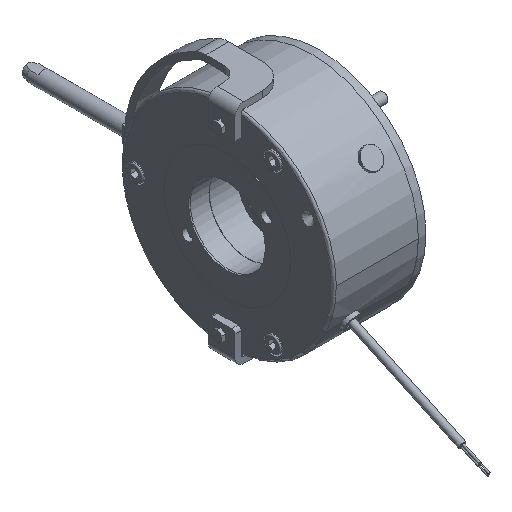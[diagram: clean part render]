
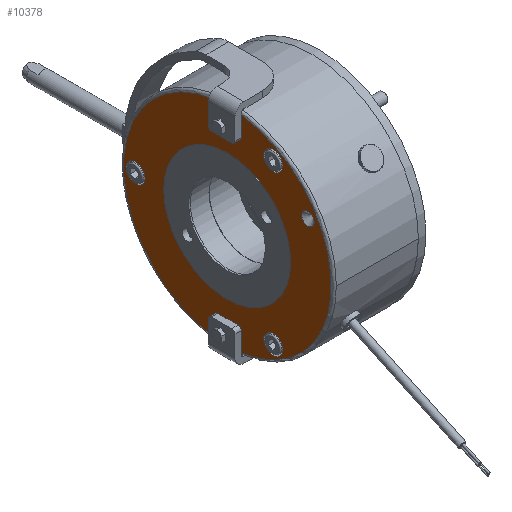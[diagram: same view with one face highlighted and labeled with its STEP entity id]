
A CAD part, isometric view. The second image highlights one B-rep face of the part: STEP entity #10378.
In plain terms, the highlighted planar face has unit normal (-1, 0, 0).
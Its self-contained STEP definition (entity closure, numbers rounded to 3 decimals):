
#744=FACE_BOUND('',#2238,.T.);
#745=FACE_BOUND('',#2239,.T.);
#746=FACE_BOUND('',#2240,.T.);
#747=FACE_BOUND('',#2241,.T.);
#748=FACE_BOUND('',#2242,.T.);
#1034=CIRCLE('',#11182,50.);
#1035=CIRCLE('',#11183,50.);
#1044=CIRCLE('',#11195,7.5);
#1045=CIRCLE('',#11196,7.5);
#1048=CIRCLE('',#11201,7.5);
#1049=CIRCLE('',#11202,7.5);
#1052=CIRCLE('',#11207,7.5);
#1053=CIRCLE('',#11208,7.5);
#1058=CIRCLE('',#11215,82.);
#1060=CIRCLE('',#11217,82.);
#1069=CIRCLE('',#11230,2.5);
#1070=CIRCLE('',#11231,2.5);
#1071=CIRCLE('',#11232,2.5);
#1072=CIRCLE('',#11233,2.5);
#1073=CIRCLE('',#11234,5.);
#1074=CIRCLE('',#11235,5.);
#1666=FACE_OUTER_BOUND('',#2237,.T.);
#2237=EDGE_LOOP('',(#7715,#7716,#7717,#7718,#7719,#7720,#7721,#7722,#7723,
#7724,#7725,#7726));
#2238=EDGE_LOOP('',(#7727,#7728));
#2239=EDGE_LOOP('',(#7729,#7730));
#2240=EDGE_LOOP('',(#7731,#7732));
#2241=EDGE_LOOP('',(#7733,#7734));
#2242=EDGE_LOOP('',(#7735,#7736));
#2916=LINE('',#16949,#3475);
#2917=LINE('',#16951,#3476);
#2918=LINE('',#16955,#3477);
#2919=LINE('',#16958,#3478);
#2920=LINE('',#16960,#3479);
#2921=LINE('',#16964,#3480);
#3475=VECTOR('',#13192,10.);
#3476=VECTOR('',#13193,10.);
#3477=VECTOR('',#13196,10.);
#3478=VECTOR('',#13199,10.);
#3479=VECTOR('',#13200,10.);
#3480=VECTOR('',#13203,10.);
#4243=VERTEX_POINT('',#16858);
#4244=VERTEX_POINT('',#16859);
#4253=VERTEX_POINT('',#16883);
#4254=VERTEX_POINT('',#16884);
#4257=VERTEX_POINT('',#16894);
#4258=VERTEX_POINT('',#16895);
#4261=VERTEX_POINT('',#16905);
#4262=VERTEX_POINT('',#16906);
#4266=VERTEX_POINT('',#16918);
#4267=VERTEX_POINT('',#16920);
#4268=VERTEX_POINT('',#16922);
#4269=VERTEX_POINT('',#16924);
#4277=VERTEX_POINT('',#16948);
#4278=VERTEX_POINT('',#16950);
#4279=VERTEX_POINT('',#16952);
#4280=VERTEX_POINT('',#16954);
#4281=VERTEX_POINT('',#16956);
#4282=VERTEX_POINT('',#16959);
#4283=VERTEX_POINT('',#16961);
#4284=VERTEX_POINT('',#16963);
#4285=VERTEX_POINT('',#16966);
#4286=VERTEX_POINT('',#16967);
#5497=EDGE_CURVE('',#4243,#4244,#1034,.T.);
#5498=EDGE_CURVE('',#4244,#4243,#1035,.T.);
#5509=EDGE_CURVE('',#4253,#4254,#1044,.T.);
#5510=EDGE_CURVE('',#4254,#4253,#1045,.T.);
#5514=EDGE_CURVE('',#4257,#4258,#1048,.T.);
#5515=EDGE_CURVE('',#4258,#4257,#1049,.T.);
#5519=EDGE_CURVE('',#4261,#4262,#1052,.T.);
#5520=EDGE_CURVE('',#4262,#4261,#1053,.T.);
#5526=EDGE_CURVE('',#4266,#4267,#1058,.T.);
#5528=EDGE_CURVE('',#4268,#4269,#1060,.T.);
#5540=EDGE_CURVE('',#4277,#4269,#2916,.T.);
#5541=EDGE_CURVE('',#4268,#4278,#2917,.T.);
#5542=EDGE_CURVE('',#4278,#4279,#1069,.T.);
#5543=EDGE_CURVE('',#4279,#4280,#2918,.T.);
#5544=EDGE_CURVE('',#4280,#4281,#1070,.T.);
#5545=EDGE_CURVE('',#4281,#4267,#2919,.T.);
#5546=EDGE_CURVE('',#4266,#4282,#2920,.T.);
#5547=EDGE_CURVE('',#4282,#4283,#1071,.T.);
#5548=EDGE_CURVE('',#4283,#4284,#2921,.T.);
#5549=EDGE_CURVE('',#4284,#4277,#1072,.T.);
#5550=EDGE_CURVE('',#4285,#4286,#1073,.T.);
#5551=EDGE_CURVE('',#4286,#4285,#1074,.T.);
#7715=ORIENTED_EDGE('',*,*,#5540,.T.);
#7716=ORIENTED_EDGE('',*,*,#5528,.F.);
#7717=ORIENTED_EDGE('',*,*,#5541,.T.);
#7718=ORIENTED_EDGE('',*,*,#5542,.T.);
#7719=ORIENTED_EDGE('',*,*,#5543,.T.);
#7720=ORIENTED_EDGE('',*,*,#5544,.T.);
#7721=ORIENTED_EDGE('',*,*,#5545,.T.);
#7722=ORIENTED_EDGE('',*,*,#5526,.F.);
#7723=ORIENTED_EDGE('',*,*,#5546,.T.);
#7724=ORIENTED_EDGE('',*,*,#5547,.T.);
#7725=ORIENTED_EDGE('',*,*,#5548,.T.);
#7726=ORIENTED_EDGE('',*,*,#5549,.T.);
#7727=ORIENTED_EDGE('',*,*,#5550,.T.);
#7728=ORIENTED_EDGE('',*,*,#5551,.T.);
#7729=ORIENTED_EDGE('',*,*,#5497,.T.);
#7730=ORIENTED_EDGE('',*,*,#5498,.T.);
#7731=ORIENTED_EDGE('',*,*,#5509,.T.);
#7732=ORIENTED_EDGE('',*,*,#5510,.T.);
#7733=ORIENTED_EDGE('',*,*,#5514,.T.);
#7734=ORIENTED_EDGE('',*,*,#5515,.T.);
#7735=ORIENTED_EDGE('',*,*,#5519,.T.);
#7736=ORIENTED_EDGE('',*,*,#5520,.T.);
#9494=PLANE('',#11229);
#10378=ADVANCED_FACE('',(#1666,#744,#745,#746,#747,#748),#9494,.T.);
#11182=AXIS2_PLACEMENT_3D('',#16860,#13088,#13089);
#11183=AXIS2_PLACEMENT_3D('',#16861,#13090,#13091);
#11195=AXIS2_PLACEMENT_3D('',#16885,#13116,#13117);
#11196=AXIS2_PLACEMENT_3D('',#16886,#13118,#13119);
#11201=AXIS2_PLACEMENT_3D('',#16896,#13129,#13130);
#11202=AXIS2_PLACEMENT_3D('',#16897,#13131,#13132);
#11207=AXIS2_PLACEMENT_3D('',#16907,#13142,#13143);
#11208=AXIS2_PLACEMENT_3D('',#16908,#13144,#13145);
#11215=AXIS2_PLACEMENT_3D('',#16921,#13159,#13160);
#11217=AXIS2_PLACEMENT_3D('',#16925,#13163,#13164);
#11229=AXIS2_PLACEMENT_3D('',#16947,#13190,#13191);
#11230=AXIS2_PLACEMENT_3D('',#16953,#13194,#13195);
#11231=AXIS2_PLACEMENT_3D('',#16957,#13197,#13198);
#11232=AXIS2_PLACEMENT_3D('',#16962,#13201,#13202);
#11233=AXIS2_PLACEMENT_3D('',#16965,#13204,#13205);
#11234=AXIS2_PLACEMENT_3D('',#16968,#13206,#13207);
#11235=AXIS2_PLACEMENT_3D('',#16969,#13208,#13209);
#13088=DIRECTION('center_axis',(1.,0.,0.));
#13089=DIRECTION('ref_axis',(0.,1.,0.));
#13090=DIRECTION('center_axis',(1.,0.,0.));
#13091=DIRECTION('ref_axis',(0.,1.,0.));
#13116=DIRECTION('center_axis',(1.,0.,0.));
#13117=DIRECTION('ref_axis',(0.,0.,1.));
#13118=DIRECTION('center_axis',(1.,0.,0.));
#13119=DIRECTION('ref_axis',(0.,0.,1.));
#13129=DIRECTION('center_axis',(1.,0.,0.));
#13130=DIRECTION('ref_axis',(0.,0.,1.));
#13131=DIRECTION('center_axis',(1.,0.,0.));
#13132=DIRECTION('ref_axis',(0.,0.,1.));
#13142=DIRECTION('center_axis',(1.,0.,0.));
#13143=DIRECTION('ref_axis',(0.,0.,1.));
#13144=DIRECTION('center_axis',(1.,0.,0.));
#13145=DIRECTION('ref_axis',(0.,0.,1.));
#13159=DIRECTION('center_axis',(1.,0.,0.));
#13160=DIRECTION('ref_axis',(0.,-1.,0.));
#13163=DIRECTION('center_axis',(1.,0.,0.));
#13164=DIRECTION('ref_axis',(0.,-1.,0.));
#13190=DIRECTION('center_axis',(-1.,0.,0.));
#13191=DIRECTION('ref_axis',(0.,0.,1.));
#13192=DIRECTION('',(0.,0.,1.));
#13193=DIRECTION('',(0.,0.,1.));
#13194=DIRECTION('center_axis',(1.,0.,0.));
#13195=DIRECTION('ref_axis',(0.,0.707,0.707));
#13196=DIRECTION('',(0.,-1.,0.));
#13197=DIRECTION('center_axis',(1.,0.,0.));
#13198=DIRECTION('ref_axis',(0.,-0.707,0.707));
#13199=DIRECTION('',(0.,0.,-1.));
#13200=DIRECTION('',(0.,0.,-1.));
#13201=DIRECTION('center_axis',(1.,0.,0.));
#13202=DIRECTION('ref_axis',(0.,-0.707,-0.707));
#13203=DIRECTION('',(0.,1.,0.));
#13204=DIRECTION('center_axis',(1.,0.,0.));
#13205=DIRECTION('ref_axis',(0.,0.707,-0.707));
#13206=DIRECTION('center_axis',(1.,0.,0.));
#13207=DIRECTION('ref_axis',(0.,0.,1.));
#13208=DIRECTION('center_axis',(1.,0.,0.));
#13209=DIRECTION('ref_axis',(0.,0.,1.));
#16858=CARTESIAN_POINT('',(-66.8,50.,0.));
#16859=CARTESIAN_POINT('',(-66.8,-50.,0.));
#16860=CARTESIAN_POINT('Origin',(-66.8,0.,0.));
#16861=CARTESIAN_POINT('Origin',(-66.8,0.,0.));
#16883=CARTESIAN_POINT('',(-66.8,72.5,7.5));
#16884=CARTESIAN_POINT('',(-66.8,72.5,-7.5));
#16885=CARTESIAN_POINT('Origin',(-66.8,72.5,0.));
#16886=CARTESIAN_POINT('Origin',(-66.8,72.5,0.));
#16894=CARTESIAN_POINT('',(-66.8,-36.25,-55.287));
#16895=CARTESIAN_POINT('',(-66.8,-36.25,-70.287));
#16896=CARTESIAN_POINT('Origin',(-66.8,-36.25,-62.787));
#16897=CARTESIAN_POINT('Origin',(-66.8,-36.25,-62.787));
#16905=CARTESIAN_POINT('',(-66.8,-36.25,70.287));
#16906=CARTESIAN_POINT('',(-66.8,-36.25,55.287));
#16907=CARTESIAN_POINT('Origin',(-66.8,-36.25,62.787));
#16908=CARTESIAN_POINT('Origin',(-66.8,-36.25,62.787));
#16918=CARTESIAN_POINT('',(-66.8,-11.,81.259));
#16920=CARTESIAN_POINT('',(-66.8,-11.,-81.259));
#16921=CARTESIAN_POINT('Origin',(-66.8,0.,0.));
#16922=CARTESIAN_POINT('',(-66.8,10.,-81.388));
#16924=CARTESIAN_POINT('',(-66.8,10.,81.388));
#16925=CARTESIAN_POINT('Origin',(-66.8,0.,0.));
#16947=CARTESIAN_POINT('Origin',(-66.8,67.,0.));
#16948=CARTESIAN_POINT('',(-66.8,10.,66.));
#16949=CARTESIAN_POINT('',(-66.8,10.,42.25));
#16950=CARTESIAN_POINT('',(-66.8,10.,-66.));
#16951=CARTESIAN_POINT('',(-66.8,10.,-44.75));
#16952=CARTESIAN_POINT('',(-66.8,7.5,-63.5));
#16953=CARTESIAN_POINT('Origin',(-66.8,7.5,-66.));
#16954=CARTESIAN_POINT('',(-66.8,-8.5,-63.5));
#16955=CARTESIAN_POINT('',(-66.8,38.5,-63.5));
#16956=CARTESIAN_POINT('',(-66.8,-11.,-66.));
#16957=CARTESIAN_POINT('Origin',(-66.8,-8.5,-66.));
#16958=CARTESIAN_POINT('',(-66.8,-11.,-42.25));
#16959=CARTESIAN_POINT('',(-66.8,-11.,66.));
#16960=CARTESIAN_POINT('',(-66.8,-11.,44.75));
#16961=CARTESIAN_POINT('',(-66.8,-8.5,63.5));
#16962=CARTESIAN_POINT('Origin',(-66.8,-8.5,66.));
#16963=CARTESIAN_POINT('',(-66.8,7.5,63.5));
#16964=CARTESIAN_POINT('',(-66.8,28.,63.5));
#16965=CARTESIAN_POINT('Origin',(-66.8,7.5,66.));
#16966=CARTESIAN_POINT('',(-66.8,-63.653,41.75));
#16967=CARTESIAN_POINT('',(-66.8,-63.653,31.75));
#16968=CARTESIAN_POINT('Origin',(-66.8,-63.653,36.75));
#16969=CARTESIAN_POINT('Origin',(-66.8,-63.653,36.75));
